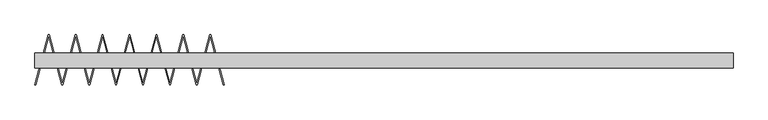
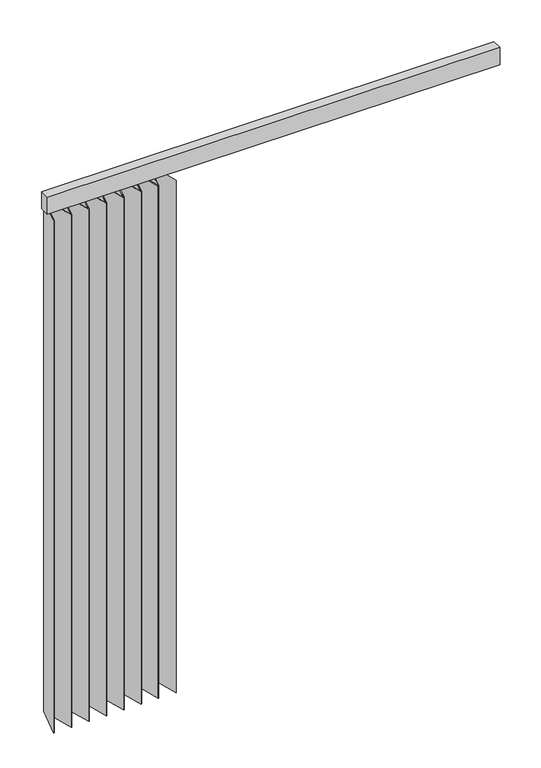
"""IFC4 building model written with IfcOpenShell, lengths in millimetres: furniture geometry, BIMHealth-Curtain_Dialysis-LOD2A-v1 : BIMHealth-Curtain_Dialysis-LOD2A-v1."""

import ifcopenshell
import ifcopenshell.guid

model = None  # the IFC model being written
_history = None  # IfcOwnerHistory: only IFC2X3 demands one
_inside = {}  # id of a spatial element -> (the spatial element, [elements in it])
_under = {}  # id of a project, library or spatial element -> (it, [spatial elements below it])
_declared = {}  # id of a project -> (the project, [libraries it declares])
_typed = {}  # id of a type object -> (the type object, [elements of that type])
_made_of = {}  # id of a material, layer set ... -> (it, [elements and type objects made of it])


def new_model(schema):
    """Start an empty IFC model of exactly this schema.

    Asked for "IFC4X3", IfcOpenShell would pick the latest addendum, in which some entities
    have other attributes; the version numbers below select the first issue.
    IFC2X3 requires an IfcOwnerHistory on every rooted entity: one is made here for all.
    """
    global model, _history
    if schema == "IFC4X3":
        model = ifcopenshell.file(schema_version=(4, 3, 0, 0))
    else:
        model = ifcopenshell.file(schema=schema)
    _inside.clear()
    _under.clear()
    _declared.clear()
    _typed.clear()
    _made_of.clear()
    _history = None
    if model.schema == "IFC2X3":
        org = make("IfcOrganization", Name="unknown")
        user = make(
            "IfcPersonAndOrganization",
            ThePerson=make("IfcPerson", FamilyName="unknown"),
            TheOrganization=org,
        )
        app = make(
            "IfcApplication",
            ApplicationDeveloper=org,
            Version="unknown",
            ApplicationFullName="unknown",
            ApplicationIdentifier="unknown",
        )
        _history = make(
            "IfcOwnerHistory",
            OwningUser=user,
            OwningApplication=app,
            ChangeAction="ADDED",
            CreationDate=0,
        )
    return model


def make(cls, **values):
    """One entity of the class cls with the attributes given. An attribute that is None is left unset."""
    return model.create_entity(
        cls, **{name: value for name, value in values.items() if value is not None}
    )


def rooted(cls, **values):
    """An entity with a GlobalId (a new one), such as an element, a storey or a relation."""
    return make(cls, GlobalId=ifcopenshell.guid.new(), OwnerHistory=_history, **values)


def si_unit(unit_type, name, prefix=None):
    """IfcSIUnit, for example si_unit("LENGTHUNIT", "METRE", prefix="MILLI")."""
    return make("IfcSIUnit", UnitType=unit_type, Prefix=prefix, Name=name)


def assignment(units):
    """IfcUnitAssignment: the units of a project."""
    return None if units is None else make("IfcUnitAssignment", Units=units)


def point(xyz):
    """IfcCartesianPoint."""
    return None if xyz is None else make("IfcCartesianPoint", Coordinates=xyz)


def direction(xyz):
    """IfcDirection."""
    return None if xyz is None else make("IfcDirection", DirectionRatios=xyz)


def frame(location, z_axis=None, x_axis=None):
    """IfcAxis2Placement3D, a coordinate frame: its origin and axes. An axis left out is left unset."""
    return make(
        "IfcAxis2Placement3D",
        Location=point(location),
        Axis=direction(z_axis),
        RefDirection=direction(x_axis),
    )


def origin():
    """The frame at (0, 0, 0) with its axes left unset."""
    return frame((0.0, 0.0, 0.0))


def place(relative_to, where):
    """IfcLocalPlacement: puts the frame where relative to a parent placement (None: the world)."""
    return make(
        "IfcLocalPlacement", PlacementRelTo=relative_to, RelativePlacement=where
    )


def context(
    kind, dimensions, precision=None, world=None, true_north=None, identifier=None
):
    """IfcGeometricRepresentationContext, for example the 3D "Model" context."""
    return make(
        "IfcGeometricRepresentationContext",
        ContextIdentifier=identifier,
        ContextType=kind,
        CoordinateSpaceDimension=dimensions,
        Precision=precision,
        WorldCoordinateSystem=world,
        TrueNorth=true_north,
    )


def project(units=None, contexts=None):
    """IfcProject with its units and contexts."""
    return rooted(
        "IfcProject",
        Name="project",
        RepresentationContexts=contexts,
        UnitsInContext=assignment(units),
    )


def spatial(cls, under=None, at=None, **own):
    """A site, building, storey or space (cls), placed at a placement, below another one or the project."""
    s = rooted(cls, ObjectPlacement=at, **own)
    if under is not None:
        _under.setdefault(under.id(), (under, []))[1].append(s)
    return s


def polyline(points):
    """IfcPolyline through the points."""
    return make("IfcPolyline", Points=[point(p) for p in points])


def outline(outer, holes=None, kind="AREA"):
    """IfcArbitraryClosedProfileDef: a profile drawn as a closed curve; with holes, ...WithVoids."""
    if holes is None:
        return make("IfcArbitraryClosedProfileDef", ProfileType=kind, OuterCurve=outer)
    return make(
        "IfcArbitraryProfileDefWithVoids",
        ProfileType=kind,
        OuterCurve=outer,
        InnerCurves=holes,
    )


def extrude(swept, where, along, depth):
    """IfcExtrudedAreaSolid: the profile swept, set in the frame where, extruded along a direction by depth."""
    return make(
        "IfcExtrudedAreaSolid",
        SweptArea=swept,
        Position=where,
        ExtrudedDirection=direction(along),
        Depth=depth,
    )


def shape(context_of_items, identifier, shape_type, items):
    """IfcShapeRepresentation: the items that make up one representation, for example the "Body"."""
    return make(
        "IfcShapeRepresentation",
        ContextOfItems=context_of_items,
        RepresentationIdentifier=identifier,
        RepresentationType=shape_type,
        Items=items,
    )


def source(mapping_origin, context_of_items, identifier, shape_type, items):
    """IfcRepresentationMap: a shape defined once, which mapped items show again and again."""
    return make(
        "IfcRepresentationMap",
        MappingOrigin=mapping_origin,
        MappedRepresentation=shape(context_of_items, identifier, shape_type, items),
    )


def transform(
    local_origin,
    x_axis=None,
    y_axis=None,
    z_axis=None,
    scale=None,
    scale2=None,
    scale3=None,
    uniform=True,
):
    """IfcCartesianTransformationOperator3D, or its non-uniform kind. x_axis, y_axis, z_axis: its Axis1, 2, 3."""
    if uniform:
        return make(
            "IfcCartesianTransformationOperator3D",
            Axis1=direction(x_axis),
            Axis2=direction(y_axis),
            LocalOrigin=point(local_origin),
            Scale=scale,
            Axis3=direction(z_axis),
        )
    return make(
        "IfcCartesianTransformationOperator3DnonUniform",
        Axis1=direction(x_axis),
        Axis2=direction(y_axis),
        LocalOrigin=point(local_origin),
        Scale=scale,
        Axis3=direction(z_axis),
        Scale2=scale2,
        Scale3=scale3,
    )


def mapped(mapping_source, mapping_target):
    """IfcMappedItem: shows the shape of a source again, moved by a transform."""
    return make(
        "IfcMappedItem", MappingSource=mapping_source, MappingTarget=mapping_target
    )


def made_of(thing, what):
    """Note that an element or type object is made of a material, layer set ...; save() writes the relation."""
    if what is not None:
        _made_of.setdefault(what.id(), (what, []))[1].append(thing)
    return thing


def element(
    cls,
    number,
    at=None,
    inside=None,
    cuts=None,
    type_object=None,
    material=None,
    context=None,
    identifier="Body",
    shape_type=None,
    held_by="IfcProductDefinitionShape",
    body=None,
    shapes=None,
    **own,
):
    """One element of the class cls, such as IfcWall. Its Tag is "e" and its number.

    at: its placement. inside: the storey or other place that contains it. cuts: it is an
    opening in that element (IfcRelVoidsElement). A single representation is given by context,
    identifier, shape_type and body (its items); several are given by shapes. held_by: the class
    of the entity that holds the representations. save() writes the other relations.
    """
    e = rooted(cls, Tag="e%d" % number, ObjectPlacement=at, **own)
    if body is not None:
        shapes = [shape(context, identifier, shape_type, body)]
    if shapes is not None:
        e.Representation = make(held_by, Representations=shapes)
    if inside is not None:
        _inside.setdefault(inside.id(), (inside, []))[1].append(e)
    if cuts is not None:
        rooted(
            "IfcRelVoidsElement", RelatingBuildingElement=cuts, RelatedOpeningElement=e
        )
    if type_object is not None:
        _typed.setdefault(type_object.id(), (type_object, []))[1].append(e)
    return made_of(e, material)


def aggregate(whole, parts):
    """IfcRelAggregates: a whole, such as a stair, and the parts it consists of."""
    return rooted("IfcRelAggregates", RelatingObject=whole, RelatedObjects=parts)


def save(model, path):
    """Write the relations noted so far, then the file.

    IfcRelAggregates (storeys below a building ...), IfcRelContainedInSpatialStructure (elements
    in a storey), IfcRelDefinesByType, IfcRelAssociatesMaterial and IfcRelDeclares: one each for
    every whole, place, type object, material and project.
    """
    for whole, parts in _under.values():
        aggregate(whole, parts)
    for where, things in _inside.values():
        rooted(
            "IfcRelContainedInSpatialStructure",
            RelatedElements=things,
            RelatingStructure=where,
        )
    for kind, things in _typed.values():
        rooted("IfcRelDefinesByType", RelatedObjects=things, RelatingType=kind)
    for what, things in _made_of.values():
        rooted("IfcRelAssociatesMaterial", RelatedObjects=things, RelatingMaterial=what)
    for by, libraries in _declared.values():
        rooted("IfcRelDeclares", RelatingContext=by, RelatedDefinitions=libraries)
    model.write(path)


def furniture_c88544d2(model_context):
    return source(origin(), model_context, "Body", "SweptSolid", [
        extrude(outline(polyline([(1860.0, 40.0), (1860.0, 0.0), (0.0, 0.0), (0.0, 40.0), (1860.0, 40.0)])), frame((0.0, 0.0, 2325.0), z_axis=(0.0, 0.0, 1.0), x_axis=(1.0, 0.0, 0.0)), (0.0, 0.0, 1.0), 75.0),
        extrude(outline(polyline([(35.8630189, 88.8426086), (37.9335712, 88.8426086), (72.761314, -41.1362967), (107.5890567, 88.8426086), (109.659609, 88.8426086), (144.4873517, -41.1362967), (179.3150944, 88.8426086), (181.3856468, 88.8426086), (216.2133895, -41.1362967), (251.0411322, 88.8426086), (253.1116846, 88.8426086), (287.9394273, -41.1362967), (322.76717, 88.8426086), (324.8377223, 88.8426086), (359.665465, -41.1362967), (394.4932078, 88.8426086), (396.5637601, 88.8426086), (431.3915028, -41.1362967), (466.2192455, 88.8426086), (468.2897979, 88.8426086), (504.1528168, -45.0), (502.2209651, -45.5176381), (467.2545217, 84.9789053), (432.426779, -45.0), (430.3562266, -45.0), (395.5284839, 84.9789053), (360.7007412, -45.0), (358.6301889, -45.0), (323.8024462, 84.9789053), (288.9747035, -45.0), (286.9041511, -45.0), (252.0764084, 84.9789053), (217.2486657, -45.0), (215.1781133, -45.0), (180.3503706, 84.9789053), (145.5226279, -45.0), (143.4520755, -45.0), (108.6243328, 84.9789053), (73.7965901, -45.0), (71.7260378, -45.0), (36.8982951, 84.9789053), (1.9318517, -45.5176381), (0.0, -45.0), (35.8630189, 88.8426086)])), frame((0.0, 0.0, 100.0), z_axis=(0.0, 0.0, 1.0), x_axis=(1.0, 0.0, 0.0)), (0.0, 0.0, 1.0), 2225.0),
    ])


if __name__ == "__main__":
    model = new_model("IFC4")
    model_context = context("Model", 3, world=origin())
    ifc_project = project(units=[si_unit("LENGTHUNIT", "METRE", prefix="MILLI")], contexts=[model_context])
    site = spatial("IfcSite", under=ifc_project)
    building = spatial("IfcBuilding", under=site)
    placement = place(None, origin())
    furniture_shape = furniture_c88544d2(model_context)
    element("IfcFurniture", 1, ObjectType="BIMHealth-Curtain_Dialysis-LOD2A-v1 : BIMHealth-Curtain_Dialysis-LOD2A-v1", at=placement, inside=building, context=model_context, shape_type="MappedRepresentation", body=[
        mapped(furniture_shape, transform((0.0, 0.0, 0.0), x_axis=(1.0, 0.0, 0.0), y_axis=(0.0, 1.0, 0.0), z_axis=(0.0, 0.0, 1.0))),
    ])
    save(model, "model.ifc")
